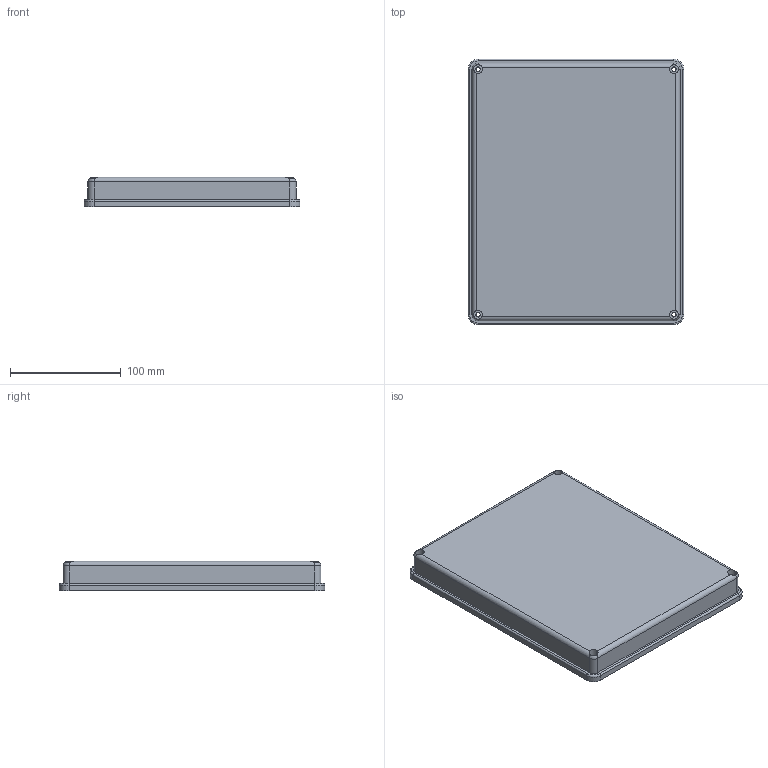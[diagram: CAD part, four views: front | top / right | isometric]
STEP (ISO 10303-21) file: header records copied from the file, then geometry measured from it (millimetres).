
FILE_DESCRIPTION(('STEP AP214'),'1');
FILE_NAME('D:/CSTmws/Pictures/Cover185x230Greenel.stp','2018-07-27T09:49:39',('Evgeny'),(' '),'Spatial InterOp 3D','CST ACIS InterOp Converter 2009',' ');
FILE_SCHEMA(('automotive_design'));
Length unit declared in the file: millimetre
Products named in the file (1): component1|solid2
Bounding box: 195 x 240 x 26.5 mm (x, y, z)
Volume: 108509.5 mm3; surface area: 142137.3 mm2
Topology: 1 solids, 1 shells, 98 faces, 256 edges, 164 vertices
Faces by surface type: cylinder 52, plane 38, torus 8
Entity records: 4009 total; most frequent: CARTESIAN_POINT 687, DIRECTION 558, ORIENTED_EDGE 512, EDGE_CURVE 256, AXIS2_PLACEMENT_3D 211, VERTEX_POINT 164, LINE 136, VECTOR 136
